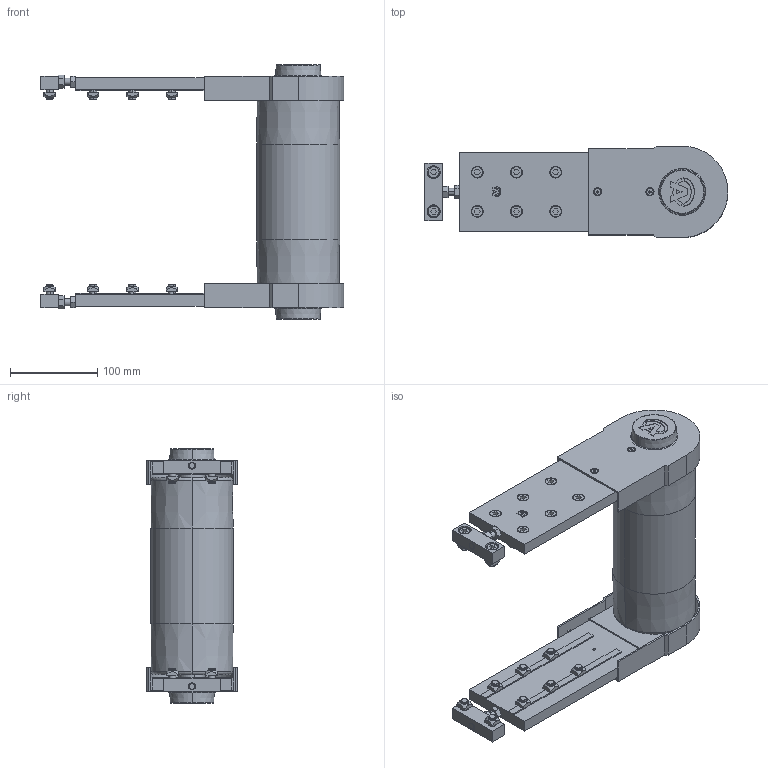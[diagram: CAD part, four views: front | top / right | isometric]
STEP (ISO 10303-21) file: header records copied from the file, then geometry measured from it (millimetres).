
FILE_DESCRIPTION (( 'STEP AP203' ), '1' );
FILE_NAME ('084.095.KI.200.step', '2014-02-18T11:36:38', ( '' ), ( '' ), 'SwSTEP 2.0', 'SolidWorks 2012', '' );
FILE_SCHEMA (( 'CONFIG_CONTROL_DESIGN' ));
Length unit declared in the file: millimetre
Products named in the file (12): 084.802.019_084.802.019; 084.810.003; 084.808.002_084.808.002; 084.812.003; 084.816.101_084.816.107<A macchina>; 084.302.000 DADI ALUSIC 13x13_084.302.004; 084.301.000 VITI ALUSIC_084.301.003; 084.803.005-1; 084.095.KI.200; ISO 10642 - M4 x 12 --- 12S_ISO 10642 - M4 x 12 --- 12S; Circlip DIN 471 - 30 x 1.5_Circlip DIN 471 - 30 x 1.5; 084.803.003
Assembly tree (51 placements, depth 2):
  084.095.KI.200
    084.803.005-1  x2
    084.301.000 VITI ALUSIC_084.301.003  x16
    084.302.000 DADI ALUSIC 13x13_084.302.004  x16
    084.816.101_084.816.107<A macchina>
    084.812.003  x2
    084.808.002_084.808.002  x2
    084.810.003  x2
    084.802.019_084.802.019  x2
    084.803.003  x2
    Circlip DIN 471 - 30 x 1.5_Circlip DIN 471 - 30 x 1.5  x2
    ISO 10642 - M4 x 12 --- 12S_ISO 10642 - M4 x 12 --- 12S  x4
Bounding box: 348.5 x 105 x 293 mm (x, y, z)
Volume: 1485153.3 mm3; surface area: 597037.2 mm2
Topology: 57 solids, 59 shells, 1890 faces, 4834 edges, 3126 vertices
Faces by surface type: plane 959, cylinder 471, cone 280, torus 124, bspline 48, sphere 8
Entity records: 24561 total; most frequent: CARTESIAN_POINT 4373, DIRECTION 3819, ORIENTED_EDGE 3674, EDGE_CURVE 1837, AXIS2_PLACEMENT_3D 1331, VERTEX_POINT 1201, VECTOR 1157, LINE 1157
